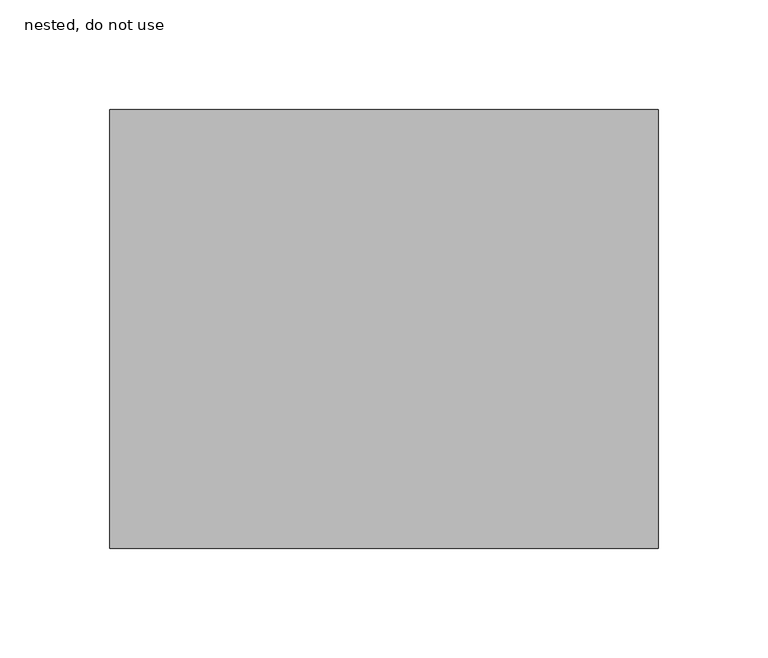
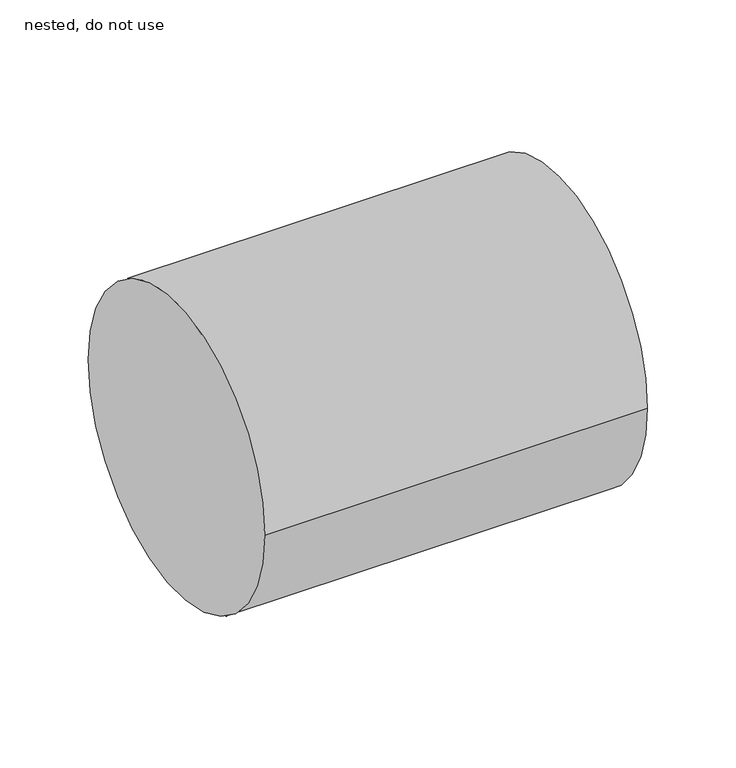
"""IFC4 building model written with IfcOpenShell, lengths in millimetres: pipe segment geometry, NLRS_52_PIF_UN_Vacurain Flex pipe_SH_Dyka : nested, do not use."""

from ifc_helpers import new_model, si_unit, point, frame, origin, origin_2d, place, context, project, spatial, circle_curve, trimmed, segment, composite_curve, outline, extrude, source, transform, mapped, element, save


def nested_do_not_use_6b1067a0(model_context):
    return source(origin(), model_context, "Body", "SweptSolid", [
        extrude(outline(composite_curve([segment(trimmed(circle_curve(origin_2d(), 100.0), [point((-100.0, 0.0))], [point((100.0, 0.0))], False, "CARTESIAN"), True, "CONTINUOUS"), segment(trimmed(circle_curve(origin_2d(), 100.0), [point((100.0, 0.0))], [point((-100.0, 0.0))], False, "CARTESIAN"), True, "CONTINUOUS")], self_intersect=False)), frame((0.0, 0.0, 0.0), z_axis=(1.0, 0.0, 0.0), x_axis=(0.0, 1.0, 0.0)), (0.0, 0.0, 1.0), 250.0),
    ])


if __name__ == "__main__":
    model = new_model("IFC4")
    model_context = context("Model", 3, world=origin())
    ifc_project = project(units=[si_unit("LENGTHUNIT", "METRE", prefix="MILLI")], contexts=[model_context])
    site = spatial("IfcSite", under=ifc_project)
    building = spatial("IfcBuilding", under=site)
    placement = place(None, origin())
    nested_do_not_use_shape = nested_do_not_use_6b1067a0(model_context)
    element("IfcPipeSegment", 1, ObjectType="NLRS_52_PIF_UN_Vacurain Flex pipe_SH_Dyka : nested, do not use", at=placement, inside=building, context=model_context, shape_type="MappedRepresentation", body=[
        mapped(nested_do_not_use_shape, transform((0.0, 0.0, 0.0), x_axis=(1.0, 0.0, 0.0), y_axis=(0.0, 1.0, 0.0), z_axis=(0.0, 0.0, 1.0))),
    ])
    save(model, "model.ifc")
